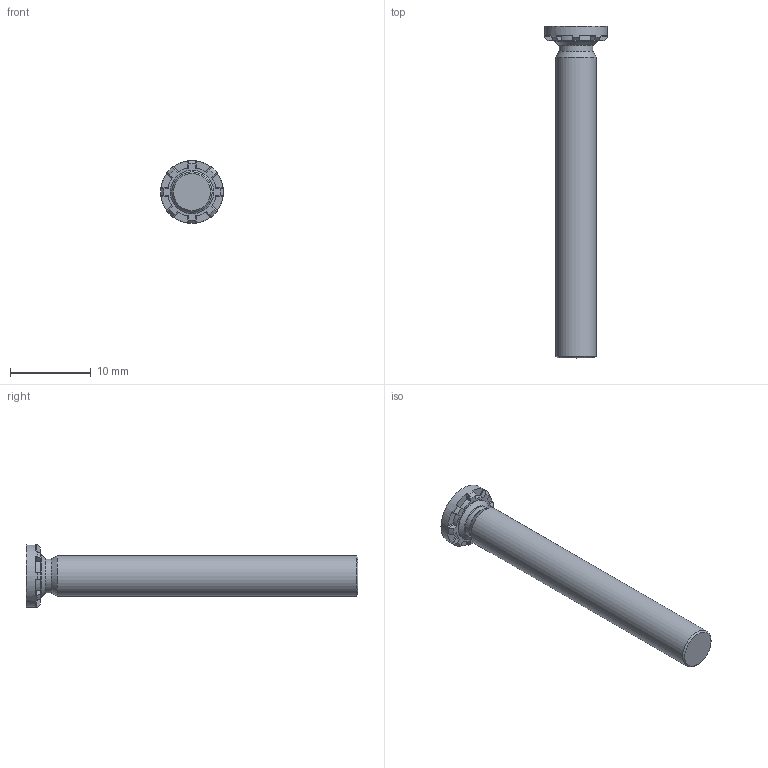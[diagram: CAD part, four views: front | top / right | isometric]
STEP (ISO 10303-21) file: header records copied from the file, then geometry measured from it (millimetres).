
FILE_DESCRIPTION(/* description */ (''),/* implementation_level */ '2;1');
FILE_NAME(/* name */ 'C:\Users\keval.kumar\Desktop\Fastit\Clinch Screw- HFH Range\M5\Clinch Screw-HFH Range_M5x40.stp',/* time_stamp */ '2024-03-12T14:31:44+05:00',/* author */ ('keval.kumar'),/* organization */ (''),/* preprocessor_version */ 'ST-DEVELOPER v18.1',/* originating_system */ 'Autodesk Inventor 2022',/* authorisation */ '');
FILE_SCHEMA (('AUTOMOTIVE_DESIGN { 1 0 10303 214 3 1 1 }'));
Length unit declared in the file: millimetre
Products named in the file (1): Clinch Screw-HFH Range_M5x40
Bounding box: 7.8 x 41.14 x 7.8 mm (x, y, z)
Volume: 842.1 mm3; surface area: 757 mm2
Topology: 1 solids, 1 shells, 68 faces, 193 edges, 128 vertices
Faces by surface type: plane 43, cylinder 12, cone 11, torus 2
Full cylindrical faces by diameter (mm): 4.2 x1, 5 x1, 5.4 x1, 7.8 x1
Entity records: 2278 total; most frequent: CARTESIAN_POINT 422, DIRECTION 405, ORIENTED_EDGE 386, EDGE_CURVE 193, AXIS2_PLACEMENT_3D 159, VERTEX_POINT 128, LINE 87, VECTOR 87
